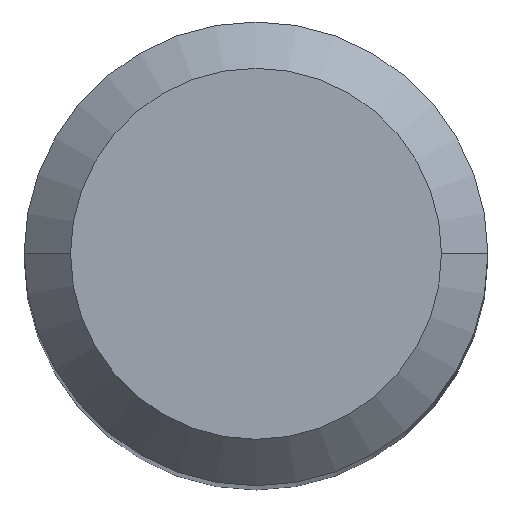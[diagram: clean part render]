
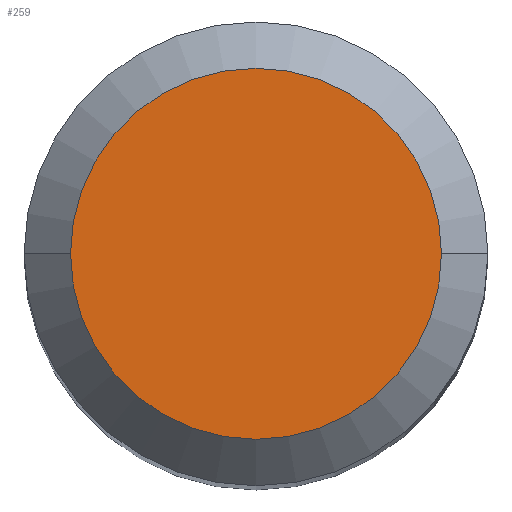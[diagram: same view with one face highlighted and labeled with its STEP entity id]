
A CAD part, top view. The second image highlights one B-rep face of the part: STEP entity #259.
In plain terms, the highlighted planar face has unit normal (0, 0, 1).
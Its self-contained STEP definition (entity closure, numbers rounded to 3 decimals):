
#50 = DIRECTION ( 'NONE',  ( 0., 0., -1. ) ) ;
#69 = VERTEX_POINT ( 'NONE', #490 ) ;
#73 = FACE_OUTER_BOUND ( 'NONE', #386, .T. ) ;
#77 = VERTEX_POINT ( 'NONE', #439 ) ;
#109 = CIRCLE ( 'NONE', #434, 3.2 ) ;
#149 = CARTESIAN_POINT ( 'NONE',  ( 0., 0., 0. ) ) ;
#259 = ADVANCED_FACE ( 'NONE', ( #73 ), #478, .T. ) ;
#268 = EDGE_CURVE ( 'NONE', #77, #69, #109, .T. ) ;
#274 = AXIS2_PLACEMENT_3D ( 'NONE', #149, #50, #362 ) ;
#339 = ORIENTED_EDGE ( 'NONE', *, *, #268, .F. ) ;
#362 = DIRECTION ( 'NONE',  ( -1., 0., 0. ) ) ;
#373 = CARTESIAN_POINT ( 'NONE',  ( 0., 3.2, 0. ) ) ;
#386 = EDGE_LOOP ( 'NONE', ( #339, #473 ) ) ;
#400 = CIRCLE ( 'NONE', #274, 3.2 ) ;
#409 = AXIS2_PLACEMENT_3D ( 'NONE', #373, #471, #568 ) ;
#412 = EDGE_CURVE ( 'NONE', #69, #77, #400, .T. ) ;
#413 = CARTESIAN_POINT ( 'NONE',  ( 0., 0., 0. ) ) ;
#421 = DIRECTION ( 'NONE',  ( 0., 0., -1. ) ) ;
#434 = AXIS2_PLACEMENT_3D ( 'NONE', #413, #421, #565 ) ;
#439 = CARTESIAN_POINT ( 'NONE',  ( -3.2, 0., 0. ) ) ;
#471 = DIRECTION ( 'NONE',  ( 0., 0., 1. ) ) ;
#473 = ORIENTED_EDGE ( 'NONE', *, *, #412, .F. ) ;
#478 = PLANE ( 'NONE',  #409 ) ;
#490 = CARTESIAN_POINT ( 'NONE',  ( 3.2, 0., 0. ) ) ;
#565 = DIRECTION ( 'NONE',  ( -1., 0., 0. ) ) ;
#568 = DIRECTION ( 'NONE',  ( 1., 0., 0. ) ) ;
